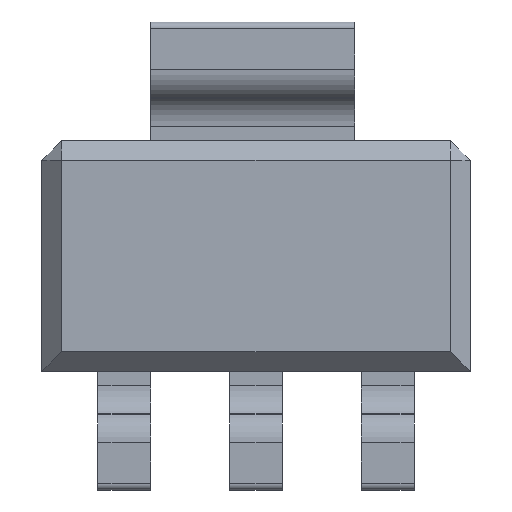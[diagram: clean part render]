
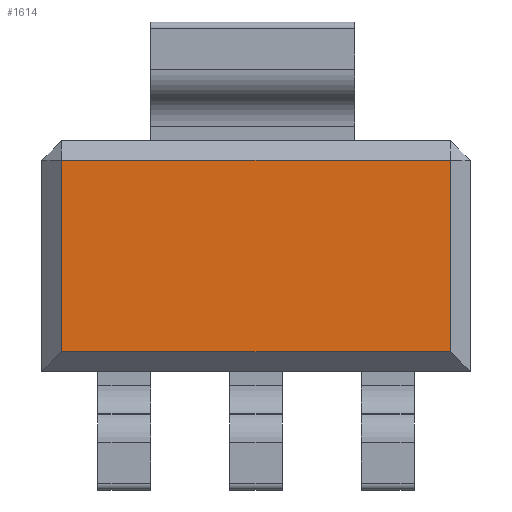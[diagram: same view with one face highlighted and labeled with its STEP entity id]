
A CAD part, top view. The second image highlights one B-rep face of the part: STEP entity #1614.
In plain terms, the highlighted planar face has unit normal (0, 0, 1).
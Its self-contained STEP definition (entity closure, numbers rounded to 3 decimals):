
#102 = VERTEX_POINT ( 'NONE', #530 ) ;
#118 = VECTOR ( 'NONE', #1144, 1000. ) ;
#164 = CARTESIAN_POINT ( 'NONE',  ( 0., 0., 1.6 ) ) ;
#174 = CARTESIAN_POINT ( 'NONE',  ( -2.95, -1.45, 1.6 ) ) ;
#178 = CARTESIAN_POINT ( 'NONE',  ( -2.95, -1.75, 1.6 ) ) ;
#246 = DIRECTION ( 'NONE',  ( -1., 0., 0. ) ) ;
#350 = EDGE_CURVE ( 'NONE', #102, #665, #412, .T. ) ;
#412 = LINE ( 'NONE', #746, #795 ) ;
#530 = CARTESIAN_POINT ( 'NONE',  ( 2.95, -1.45, 1.6 ) ) ;
#665 = VERTEX_POINT ( 'NONE', #1026 ) ;
#746 = CARTESIAN_POINT ( 'NONE',  ( 2.95, 1.75, 1.6 ) ) ;
#795 = VECTOR ( 'NONE', #799, 1000. ) ;
#799 = DIRECTION ( 'NONE',  ( 0., 1., 0. ) ) ;
#996 = CARTESIAN_POINT ( 'NONE',  ( 3.25, -1.45, 1.6 ) ) ;
#1026 = CARTESIAN_POINT ( 'NONE',  ( 2.95, 1.45, 1.6 ) ) ;
#1033 = LINE ( 'NONE', #996, #1846 ) ;
#1144 = DIRECTION ( 'NONE',  ( 0., -1., 0. ) ) ;
#1276 = EDGE_CURVE ( 'NONE', #2373, #2025, #1903, .T. ) ;
#1321 = EDGE_CURVE ( 'NONE', #2025, #102, #1033, .T. ) ;
#1394 = CARTESIAN_POINT ( 'NONE',  ( -2.95, 1.45, 1.6 ) ) ;
#1499 = PLANE ( 'NONE',  #1650 ) ;
#1546 = ORIENTED_EDGE ( 'NONE', *, *, #1710, .T. ) ;
#1614 = ADVANCED_FACE ( 'NONE', ( #2118 ), #1499, .T. ) ;
#1631 = ORIENTED_EDGE ( 'NONE', *, *, #1276, .T. ) ;
#1650 = AXIS2_PLACEMENT_3D ( 'NONE', #164, #2470, #2458 ) ;
#1710 = EDGE_CURVE ( 'NONE', #665, #2373, #2004, .T. ) ;
#1785 = EDGE_LOOP ( 'NONE', ( #1631, #1959, #2176, #1546 ) ) ;
#1846 = VECTOR ( 'NONE', #1954, 1000. ) ;
#1903 = LINE ( 'NONE', #178, #118 ) ;
#1954 = DIRECTION ( 'NONE',  ( 1., 0., 0. ) ) ;
#1959 = ORIENTED_EDGE ( 'NONE', *, *, #1321, .T. ) ;
#2004 = LINE ( 'NONE', #2332, #2082 ) ;
#2025 = VERTEX_POINT ( 'NONE', #174 ) ;
#2082 = VECTOR ( 'NONE', #246, 1000. ) ;
#2118 = FACE_OUTER_BOUND ( 'NONE', #1785, .T. ) ;
#2176 = ORIENTED_EDGE ( 'NONE', *, *, #350, .T. ) ;
#2332 = CARTESIAN_POINT ( 'NONE',  ( -3.25, 1.45, 1.6 ) ) ;
#2373 = VERTEX_POINT ( 'NONE', #1394 ) ;
#2458 = DIRECTION ( 'NONE',  ( 1., 0., 0. ) ) ;
#2470 = DIRECTION ( 'NONE',  ( 0., 0., 1. ) ) ;
